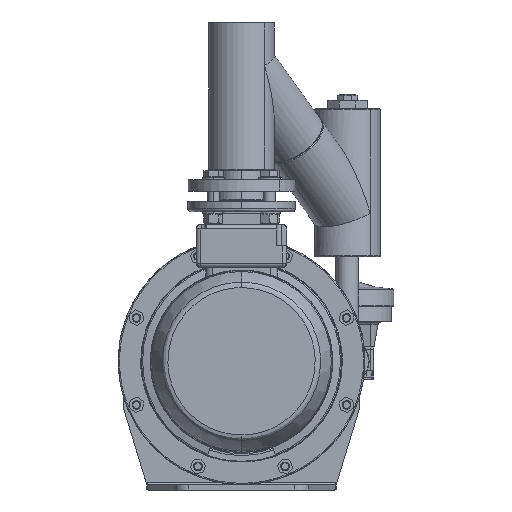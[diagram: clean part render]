
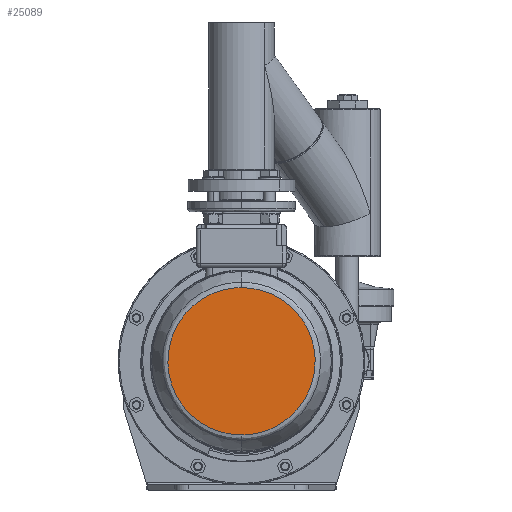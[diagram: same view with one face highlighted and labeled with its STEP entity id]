
A CAD part, front view. The second image highlights one B-rep face of the part: STEP entity #25089.
In plain terms, the highlighted planar face has unit normal (0, -1, 0).
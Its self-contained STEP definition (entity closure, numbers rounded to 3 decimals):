
#19172 = CARTESIAN_POINT ( 'NONE',  ( -154.478, -770.387, 128.019 ) ) ;
#19174 = CARTESIAN_POINT ( 'NONE',  ( -360.517, -770.387, 128.019 ) ) ;
#19176 = CARTESIAN_POINT ( 'NONE',  ( -360.517, -770.387, -78.019 ) ) ;
#19178 = CARTESIAN_POINT ( 'NONE',  ( -154.478, -770.387, -78.019 ) ) ;
#19190 =( BOUNDED_CURVE ( )  B_SPLINE_CURVE ( 3, ( #19178, #19176, #19174, #19172 ),
 .UNSPECIFIED., .F., .T. ) 
 B_SPLINE_CURVE_WITH_KNOTS ( ( 4, 4 ),
 ( 0., 1. ),
 .UNSPECIFIED. ) 
 CURVE ( )  GEOMETRIC_REPRESENTATION_ITEM ( )  RATIONAL_B_SPLINE_CURVE ( ( 1., 0.333, 0.333, 1. ) ) 
 REPRESENTATION_ITEM ( '' )  );
#19241 = CARTESIAN_POINT ( 'NONE',  ( -154.478, -770.387, -78.019 ) ) ;
#19687 = CARTESIAN_POINT ( 'NONE',  ( -154.478, -770.387, 128.019 ) ) ;
#20671 = EDGE_CURVE ( 'NONE', #20693, #20820, #19190, .T. ) ;
#20693 = VERTEX_POINT ( 'NONE', #19241 ) ;
#20820 = VERTEX_POINT ( 'NONE', #19687 ) ;
#24981 = EDGE_LOOP ( 'NONE', ( #25085, #25029 ) ) ;
#24992 = EDGE_CURVE ( 'NONE', #20820, #20693, #31810, .T. ) ;
#25029 = ORIENTED_EDGE ( 'NONE', *, *, #24992, .F. ) ;
#25085 = ORIENTED_EDGE ( 'NONE', *, *, #20671, .F. ) ;
#25089 = ADVANCED_FACE ( 'NONE', ( #31992 ), #32024, .T. ) ;
#31794 = CARTESIAN_POINT ( 'NONE',  ( -154.478, -770.387, -78.019 ) ) ;
#31796 = CARTESIAN_POINT ( 'NONE',  ( 51.56, -770.387, -78.019 ) ) ;
#31798 = CARTESIAN_POINT ( 'NONE',  ( 51.56, -770.387, 128.019 ) ) ;
#31800 = CARTESIAN_POINT ( 'NONE',  ( -154.478, -770.387, 128.019 ) ) ;
#31810 =( BOUNDED_CURVE ( )  B_SPLINE_CURVE ( 3, ( #31800, #31798, #31796, #31794 ),
 .UNSPECIFIED., .F., .T. ) 
 B_SPLINE_CURVE_WITH_KNOTS ( ( 4, 4 ),
 ( 0., 1. ),
 .UNSPECIFIED. ) 
 CURVE ( )  GEOMETRIC_REPRESENTATION_ITEM ( )  RATIONAL_B_SPLINE_CURVE ( ( 1., 0.333, 0.333, 1. ) ) 
 REPRESENTATION_ITEM ( '' )  );
#31992 = FACE_OUTER_BOUND ( 'NONE', #24981, .T. ) ;
#31999 = AXIS2_PLACEMENT_3D ( 'NONE', #32110, #32109, #32107 ) ;
#32024 = PLANE ( 'NONE',  #31999 ) ;
#32107 = DIRECTION ( 'NONE',  ( 1., 0., 0. ) ) ;
#32109 = DIRECTION ( 'NONE',  ( 0., -1., 0. ) ) ;
#32110 = CARTESIAN_POINT ( 'NONE',  ( -154.478, -770.387, 25. ) ) ;
